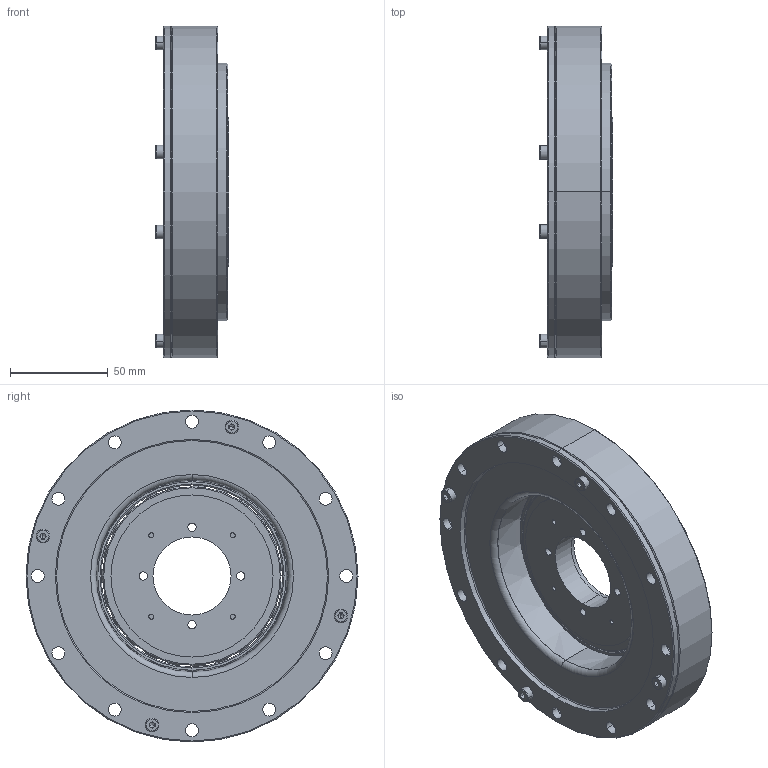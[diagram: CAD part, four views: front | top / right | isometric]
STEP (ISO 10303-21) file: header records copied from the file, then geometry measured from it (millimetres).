
FILE_DESCRIPTION (( 'STEP AP203' ), '1' );
FILE_NAME ('LHD-40-XXX-C-I.STEP', '2016-08-04T02:07:49', ( 'lenovo' ), ( 'Microsoft' ), 'SwSTEP 2.0', 'SolidWorks 2013', '' );
FILE_SCHEMA (( 'CONFIG_CONTROL_DESIGN' ));
Length unit declared in the file: millimetre
Products named in the file (13): LHD-40-XXX-C-I; RZC-40; LHD-40-XXX-P01; LHD-40-XXX-P04; LHD-40-XXX-P02; YF-40-I; LHD-40-XXX-P03; DIN 912 M4 x 10 --- 10C_DIN 912 M4 x 10 --- 10C; DB-40-I; DIN 912 M5 x 16 --- 16C_DIN 912 M5 x 16 --- 16C; RZC-40G内外圈+钢球; ISO 7046-1 - M3 x 6 - Z --- 6C_ISO 7046-1 - M3 x 6 - Z --- 6C; 悵厥殤
Assembly tree (23 placements, depth 3):
  LHD-40-XXX-C-I
    LHD-40-XXX-P03
    DB-40-I
    RZC-40
      RZC-40G内外圈+钢球
      悵厥殤
    LHD-40-XXX-P01
    LHD-40-XXX-P04
    LHD-40-XXX-P02
    YF-40-I
    DIN 912 M4 x 10 --- 10C_DIN 912 M4 x 10 --- 10C  x4
    DIN 912 M5 x 16 --- 16C_DIN 912 M5 x 16 --- 16C  x6
    ISO 7046-1 - M3 x 6 - Z --- 6C_ISO 7046-1 - M3 x 6 - Z --- 6C  x4
Bounding box: 37.45 x 170 x 170 mm (x, y, z)
Volume: 424310 mm3; surface area: 224354.3 mm2
Topology: 24 solids, 24 shells, 1067 faces, 2761 edges, 1694 vertices
Faces by surface type: cylinder 387, plane 328, cone 186, torus 120, sphere 46
Entity records: 25970 total; most frequent: CARTESIAN_POINT 5873, DIRECTION 4236, ORIENTED_EDGE 3654, AXIS2_PLACEMENT_3D 1851, EDGE_CURVE 1827, VERTEX_POINT 1176, CIRCLE 1096, EDGE_LOOP 923
